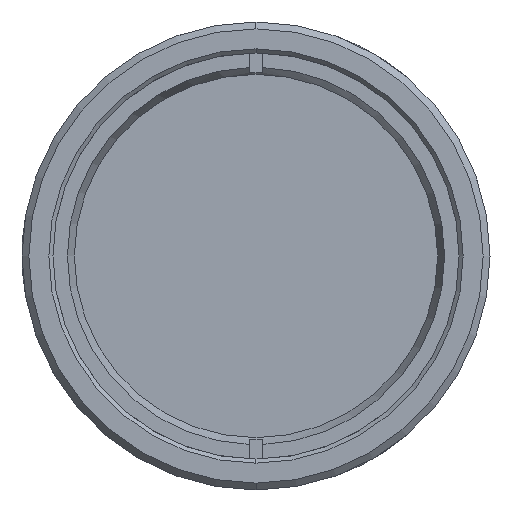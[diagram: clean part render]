
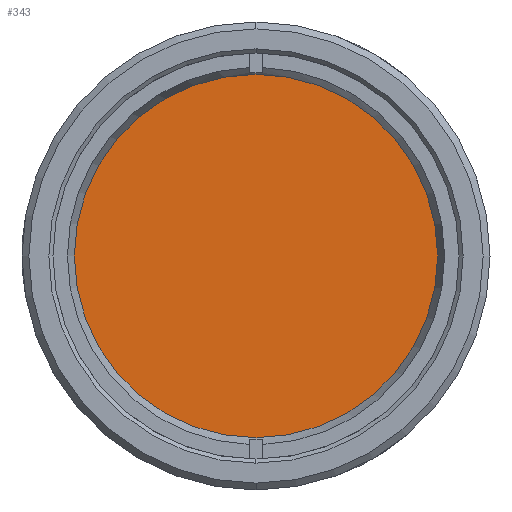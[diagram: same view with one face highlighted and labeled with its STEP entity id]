
A CAD part, left-side view. The second image highlights one B-rep face of the part: STEP entity #343.
In plain terms, the highlighted planar face has unit normal (-1, 0, 0).
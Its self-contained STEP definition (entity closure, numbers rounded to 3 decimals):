
#60 = CARTESIAN_POINT ( 'NONE',  ( 4.034, 0., 0. ) ) ;
#193 = AXIS2_PLACEMENT_3D ( 'NONE', #320, #718, #1241 ) ;
#194 = PLANE ( 'NONE',  #193 ) ;
#270 = ORIENTED_EDGE ( 'NONE', *, *, #867, .F. ) ;
#320 = CARTESIAN_POINT ( 'NONE',  ( 4.034, 0., 0. ) ) ;
#343 = ADVANCED_FACE ( 'NONE', ( #591 ), #194, .T. ) ;
#346 = CARTESIAN_POINT ( 'NONE',  ( 4.034, 0., -13.198 ) ) ;
#420 = ORIENTED_EDGE ( 'NONE', *, *, #1101, .F. ) ;
#487 = AXIS2_PLACEMENT_3D ( 'NONE', #60, #948, #828 ) ;
#585 = AXIS2_PLACEMENT_3D ( 'NONE', #864, #615, #1261 ) ;
#591 = FACE_OUTER_BOUND ( 'NONE', #1577, .T. ) ;
#615 = DIRECTION ( 'NONE',  ( 1., 0., 0. ) ) ;
#718 = DIRECTION ( 'NONE',  ( -1., 0., 0. ) ) ;
#828 = DIRECTION ( 'NONE',  ( 0., 0., 1. ) ) ;
#864 = CARTESIAN_POINT ( 'NONE',  ( 4.034, 0., 0. ) ) ;
#867 = EDGE_CURVE ( 'NONE', #934, #1244, #1553, .T. ) ;
#896 = CARTESIAN_POINT ( 'NONE',  ( 4.034, 0., 13.198 ) ) ;
#934 = VERTEX_POINT ( 'NONE', #346 ) ;
#948 = DIRECTION ( 'NONE',  ( 1., 0., 0. ) ) ;
#1101 = EDGE_CURVE ( 'NONE', #1244, #934, #1142, .T. ) ;
#1142 = CIRCLE ( 'NONE', #487, 13.198 ) ;
#1241 = DIRECTION ( 'NONE',  ( 0., 0., 1. ) ) ;
#1244 = VERTEX_POINT ( 'NONE', #896 ) ;
#1261 = DIRECTION ( 'NONE',  ( 0., 0., 1. ) ) ;
#1553 = CIRCLE ( 'NONE', #585, 13.198 ) ;
#1577 = EDGE_LOOP ( 'NONE', ( #420, #270 ) ) ;
